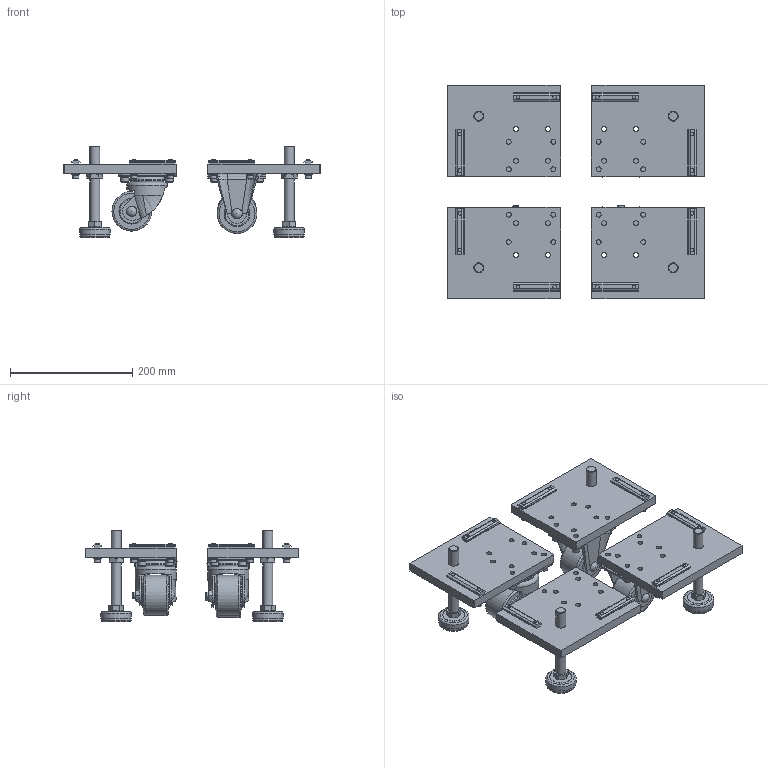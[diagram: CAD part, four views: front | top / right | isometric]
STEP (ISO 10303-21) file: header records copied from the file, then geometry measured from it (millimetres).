
FILE_DESCRIPTION(('STEP AP214'),'1');
FILE_NAME('AIFKB-M16_L150.stp','2023-07-03T02:24:48',(' '),(' '),'Spatial InterOp 3D',' ',' ');
FILE_SCHEMA(('AUTOMOTIVE_DESIGN { 1 0 10303 214 1 1 1 1 }'));
Length unit declared in the file: millimetre
Products named in the file (121): AIFFB-M16_1/4; AP4I-M16; NFM6-P60; t3M6PW; M6SW; ねじ: 穴付き - M6.0 x 25.0; CA65-F; CA65-Fﾎﾞﾃﾞｨｰ; CA65Fﾌﾟﾚｰﾄ; CA65車輪; ねじ: 穴付き - M8.0 x 16.0; M8PW; M8SW; AJ1650L150; M16ﾅｯﾄ; AIFKB-M16_L150; AIFKB-M16_1/4; CA65-K
Assembly tree (138 placements, depth 4):
  AIFKB-M16_L150
    AIFFB-M16_1/4
      AP4I-M16
      NFM6-P60
      t3M6PW
      M6SW
      ねじ: 穴付き - M6.0 x 25.0
      t3M6PW
      M6SW
      ねじ: 穴付き - M6.0 x 25.0
      NFM6-P60
      t3M6PW
      t3M6PW
      M6SW
      M6SW
      ねじ: 穴付き - M6.0 x 25.0
      ねじ: 穴付き - M6.0 x 25.0
      CA65-F
        CA65-Fﾎﾞﾃﾞｨｰ
        CA65Fﾌﾟﾚｰﾄ
        CA65車輪
      ねじ: 穴付き - M8.0 x 16.0  x4
      M8PW  x4
      M8SW  x4
      AJ1650L150
        AJ1650L150
        M16ﾅｯﾄ
    AIFFB-M16_1/4
      AP4I-M16
      NFM6-P60
      t3M6PW
      M6SW
      ねじ: 穴付き - M6.0 x 25.0
      t3M6PW
      M6SW
      ねじ: 穴付き - M6.0 x 25.0
      NFM6-P60
      t3M6PW
      t3M6PW
      M6SW
      M6SW
      ねじ: 穴付き - M6.0 x 25.0
      ねじ: 穴付き - M6.0 x 25.0
      CA65-F
        CA65-Fﾎﾞﾃﾞｨｰ
        CA65Fﾌﾟﾚｰﾄ
        CA65車輪
      (unnamed)
      ねじ: 穴付き - M8.0 x 16.0
      ねじ: 穴付き - M8.0 x 16.0
      ねじ: 穴付き - M8.0 x 16.0
      (unnamed)
      M8PW
      M8PW
      M8PW
      (unnamed)
      M8SW
      M8SW
      M8SW
      AJ1650L150
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Bounding box: 420 x 350 x 150 mm (x, y, z)
Volume: 2732888.3 mm3; surface area: 593198.2 mm2
Topology: 126 solids, 126 shells, 1492 faces, 3238 edges, 2110 vertices
Faces by surface type: plane 912, cylinder 388, cone 96, torus 52, bspline 32, offset 8, sphere 4
Full cylindrical faces by diameter (mm): 6 x32, 6.5 x16, 6.6 x16, 8 x32, 8.5 x16, 9.87 x16, 10 x4, 12.8 x16, 12.85 x16, 16 x12, 17.8 x16, 20 x8, 22 x4, 36 x4, 40 x2, 46.6 x4, 49.6 x4, 50 x4, 58 x2, 60.6 x2, 65 x4, 67 x2
Entity records: 52574 total; most frequent: CARTESIAN_POINT 9929, DIRECTION 6282, ORIENTED_EDGE 5224, EDGE_CURVE 2612, AXIS2_PLACEMENT_3D 2435, EDGE_LOOP 2006, VERTEX_POINT 1894, FACE_OUTER_BOUND 1586
